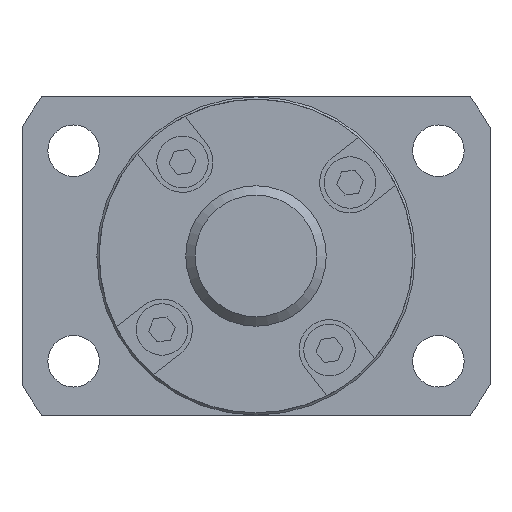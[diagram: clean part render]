
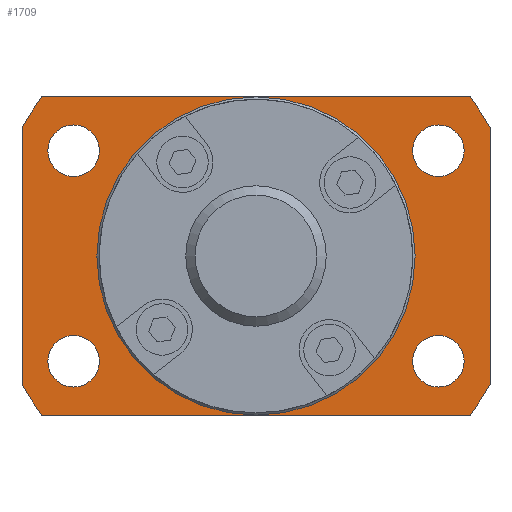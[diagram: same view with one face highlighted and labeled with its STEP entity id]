
A CAD part, left-side view. The second image highlights one B-rep face of the part: STEP entity #1709.
In plain terms, the highlighted planar face has unit normal (-1, 0, 0).
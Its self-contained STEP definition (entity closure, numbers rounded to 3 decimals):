
#99=CIRCLE('',#1878,2.75);
#100=CIRCLE('',#1879,2.75);
#101=CIRCLE('',#1880,2.75);
#102=CIRCLE('',#1881,2.75);
#103=CIRCLE('',#1882,16.75);
#104=CIRCLE('',#1883,28.5);
#105=CIRCLE('',#1884,28.5);
#106=CIRCLE('',#1885,28.5);
#107=CIRCLE('',#1886,28.5);
#255=ORIENTED_EDGE('',*,*,#664,.T.);
#256=ORIENTED_EDGE('',*,*,#665,.T.);
#257=ORIENTED_EDGE('',*,*,#666,.T.);
#258=ORIENTED_EDGE('',*,*,#667,.T.);
#259=ORIENTED_EDGE('',*,*,#668,.T.);
#260=ORIENTED_EDGE('',*,*,#669,.F.);
#261=ORIENTED_EDGE('',*,*,#670,.F.);
#262=ORIENTED_EDGE('',*,*,#671,.F.);
#263=ORIENTED_EDGE('',*,*,#672,.F.);
#264=ORIENTED_EDGE('',*,*,#673,.F.);
#265=ORIENTED_EDGE('',*,*,#674,.F.);
#266=ORIENTED_EDGE('',*,*,#675,.F.);
#267=ORIENTED_EDGE('',*,*,#676,.F.);
#664=EDGE_CURVE('',#877,#877,#99,.T.);
#665=EDGE_CURVE('',#878,#878,#100,.T.);
#666=EDGE_CURVE('',#879,#879,#101,.T.);
#667=EDGE_CURVE('',#880,#880,#102,.T.);
#668=EDGE_CURVE('',#881,#881,#103,.T.);
#669=EDGE_CURVE('',#882,#883,#104,.T.);
#670=EDGE_CURVE('',#884,#882,#1020,.T.);
#671=EDGE_CURVE('',#885,#884,#105,.T.);
#672=EDGE_CURVE('',#886,#885,#1021,.T.);
#673=EDGE_CURVE('',#887,#886,#106,.T.);
#674=EDGE_CURVE('',#888,#887,#1022,.T.);
#675=EDGE_CURVE('',#889,#888,#107,.T.);
#676=EDGE_CURVE('',#883,#889,#1023,.T.);
#877=VERTEX_POINT('',#2725);
#878=VERTEX_POINT('',#2727);
#879=VERTEX_POINT('',#2729);
#880=VERTEX_POINT('',#2731);
#881=VERTEX_POINT('',#2733);
#882=VERTEX_POINT('',#2735);
#883=VERTEX_POINT('',#2736);
#884=VERTEX_POINT('',#2738);
#885=VERTEX_POINT('',#2740);
#886=VERTEX_POINT('',#2742);
#887=VERTEX_POINT('',#2744);
#888=VERTEX_POINT('',#2746);
#889=VERTEX_POINT('',#2748);
#1020=LINE('',#2737,#1154);
#1021=LINE('',#2741,#1155);
#1022=LINE('',#2745,#1156);
#1023=LINE('',#2749,#1157);
#1154=VECTOR('',#2187,1000.);
#1155=VECTOR('',#2190,1000.);
#1156=VECTOR('',#2193,1000.);
#1157=VECTOR('',#2196,1000.);
#1299=EDGE_LOOP('',(#255));
#1300=EDGE_LOOP('',(#256));
#1301=EDGE_LOOP('',(#257));
#1302=EDGE_LOOP('',(#258));
#1303=EDGE_LOOP('',(#259));
#1304=EDGE_LOOP('',(#260,#261,#262,#263,#264,#265,#266,#267));
#1477=FACE_BOUND('',#1299,.T.);
#1478=FACE_BOUND('',#1300,.T.);
#1479=FACE_BOUND('',#1301,.T.);
#1480=FACE_BOUND('',#1302,.T.);
#1481=FACE_BOUND('',#1303,.T.);
#1482=FACE_BOUND('',#1304,.T.);
#1625=PLANE('',#1877);
#1709=ADVANCED_FACE('',(#1477,#1478,#1479,#1480,#1481,#1482),#1625,.F.);
#1877=AXIS2_PLACEMENT_3D('',#2723,#2173,#2174);
#1878=AXIS2_PLACEMENT_3D('',#2724,#2175,#2176);
#1879=AXIS2_PLACEMENT_3D('',#2726,#2177,#2178);
#1880=AXIS2_PLACEMENT_3D('',#2728,#2179,#2180);
#1881=AXIS2_PLACEMENT_3D('',#2730,#2181,#2182);
#1882=AXIS2_PLACEMENT_3D('',#2732,#2183,#2184);
#1883=AXIS2_PLACEMENT_3D('',#2734,#2185,#2186);
#1884=AXIS2_PLACEMENT_3D('',#2739,#2188,#2189);
#1885=AXIS2_PLACEMENT_3D('',#2743,#2191,#2192);
#1886=AXIS2_PLACEMENT_3D('',#2747,#2194,#2195);
#2173=DIRECTION('',(1.,0.,0.));
#2174=DIRECTION('',(0.,0.,-1.));
#2175=DIRECTION('',(1.,0.,0.));
#2176=DIRECTION('',(0.,0.,-1.));
#2177=DIRECTION('',(1.,0.,0.));
#2178=DIRECTION('',(0.,0.,-1.));
#2179=DIRECTION('',(1.,0.,0.));
#2180=DIRECTION('',(0.,0.,-1.));
#2181=DIRECTION('',(1.,0.,0.));
#2182=DIRECTION('',(0.,0.,-1.));
#2183=DIRECTION('',(1.,0.,0.));
#2184=DIRECTION('',(0.,0.,-1.));
#2185=DIRECTION('',(1.,0.,0.));
#2186=DIRECTION('',(0.,0.,-1.));
#2187=DIRECTION('',(0.,-1.,0.));
#2188=DIRECTION('',(1.,0.,0.));
#2189=DIRECTION('',(0.,0.,-1.));
#2190=DIRECTION('',(0.,0.,1.));
#2191=DIRECTION('',(1.,0.,0.));
#2192=DIRECTION('',(0.,0.,-1.));
#2193=DIRECTION('',(0.,1.,0.));
#2194=DIRECTION('',(1.,0.,0.));
#2195=DIRECTION('',(0.,0.,-1.));
#2196=DIRECTION('',(0.,0.,-1.));
#2723=CARTESIAN_POINT('',(21.,16.75,0.));
#2724=CARTESIAN_POINT('',(21.,19.486,-11.25));
#2725=CARTESIAN_POINT('',(21.,19.486,-14.));
#2726=CARTESIAN_POINT('',(21.,-19.486,11.25));
#2727=CARTESIAN_POINT('',(21.,-19.486,8.5));
#2728=CARTESIAN_POINT('',(21.,-19.486,-11.25));
#2729=CARTESIAN_POINT('',(21.,-19.486,-14.));
#2730=CARTESIAN_POINT('',(21.,19.486,11.25));
#2731=CARTESIAN_POINT('',(21.,19.486,8.5));
#2732=CARTESIAN_POINT('',(21.,0.,0.));
#2733=CARTESIAN_POINT('',(21.,0.,-16.75));
#2734=CARTESIAN_POINT('',(21.,0.,0.));
#2735=CARTESIAN_POINT('',(21.,-22.875,17.));
#2736=CARTESIAN_POINT('',(21.,-25.,13.684));
#2737=CARTESIAN_POINT('',(21.,22.875,17.));
#2738=CARTESIAN_POINT('',(21.,22.875,17.));
#2739=CARTESIAN_POINT('',(21.,0.,0.));
#2740=CARTESIAN_POINT('',(21.,25.,13.684));
#2741=CARTESIAN_POINT('',(21.,25.,-13.684));
#2742=CARTESIAN_POINT('',(21.,25.,-13.684));
#2743=CARTESIAN_POINT('',(21.,0.,0.));
#2744=CARTESIAN_POINT('',(21.,22.875,-17.));
#2745=CARTESIAN_POINT('',(21.,-22.875,-17.));
#2746=CARTESIAN_POINT('',(21.,-22.875,-17.));
#2747=CARTESIAN_POINT('',(21.,0.,0.));
#2748=CARTESIAN_POINT('',(21.,-25.,-13.684));
#2749=CARTESIAN_POINT('',(21.,-25.,13.684));
